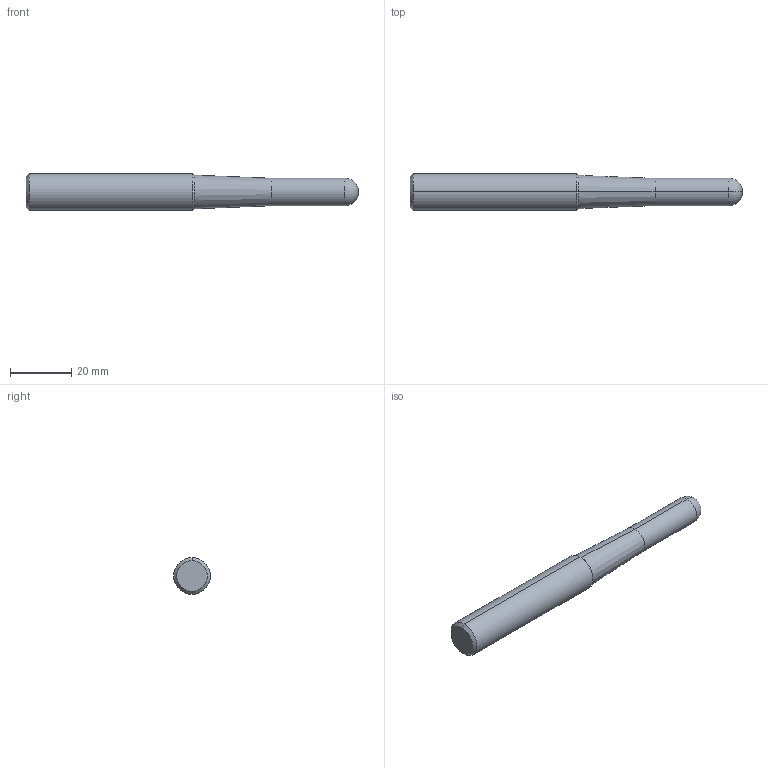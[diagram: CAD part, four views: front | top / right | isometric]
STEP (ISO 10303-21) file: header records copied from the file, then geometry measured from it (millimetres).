
FILE_DESCRIPTION (( 'STEP AP214' ), '1' );
FILE_NAME ('ZBT1002120K.STEP', '2021-09-30T23:58:45', ( '' ), ( '' ), 'SwSTEP 2.0', 'SolidWorks 2018', '' );
FILE_SCHEMA (( 'AUTOMOTIVE_DESIGN' ));
Length unit declared in the file: millimetre
Products named in the file (1): ZBT1002120K
Bounding box: 108.4 x 12 x 12 mm (x, y, z)
Volume: 9887.6 mm3; surface area: 3766.3 mm2
Topology: 1 solids, 1 shells, 14 faces, 26 edges, 14 vertices
Faces by surface type: cone 4, cylinder 4, torus 4, plane 2
Entity records: 382 total; most frequent: DIRECTION 74, CARTESIAN_POINT 55, ORIENTED_EDGE 52, AXIS2_PLACEMENT_3D 33, EDGE_CURVE 26, CIRCLE 18, ADVANCED_FACE 14, VERTEX_POINT 14
